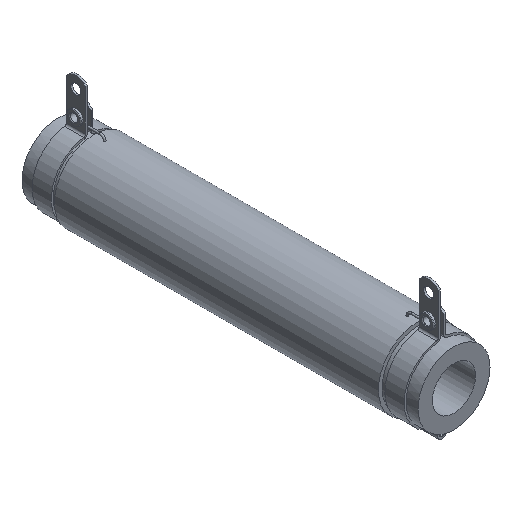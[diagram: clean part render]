
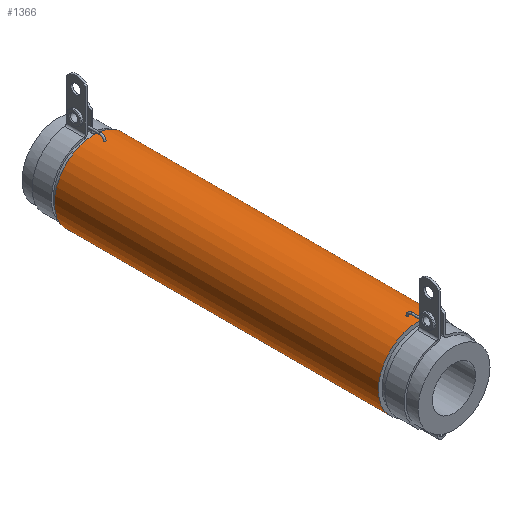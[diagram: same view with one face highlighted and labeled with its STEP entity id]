
A CAD part, isometric view. The second image highlights one B-rep face of the part: STEP entity #1366.
In plain terms, the highlighted cylindrical face has radius 16.5 mm (diameter 33 mm), a full revolution.
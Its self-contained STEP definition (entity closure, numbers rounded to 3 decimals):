
#147=B_SPLINE_CURVE_WITH_KNOTS($,3,(#2087,#2088,#2089,#2090,#2091,#2092,
#2093,#2094,#2095,#2096,#2097,#2098,#2099,#2100,#2101,#2102,#2103,#2104,
#2105,#2106,#2107,#2108,#2109,#2110,#2111,#2112,#2113,#2114,#2115,#2116,
#2117,#2118,#2119,#2120,#2121,#2122),.UNSPECIFIED.,.T.,.F.,(4,2,2,2,2,2,
2,2,2,2,2,2,2,2,2,2,2,4),(0.,0.016,0.031,0.047,
0.063,0.079,0.095,0.11,
0.126,0.141,0.157,0.172,
0.189,0.204,0.22,0.236,
0.245,0.254),.UNSPECIFIED.);
#148=B_SPLINE_CURVE_WITH_KNOTS($,3,(#2124,#2125,#2126,#2127,#2128,#2129,
#2130,#2131,#2132,#2133,#2134,#2135,#2136,#2137,#2138,#2139,#2140,#2141,
#2142,#2143,#2144,#2145,#2146,#2147,#2148,#2149,#2150,#2151,#2152,#2153,
#2154,#2155,#2156,#2157,#2158,#2159),.UNSPECIFIED.,.T.,.F.,(4,2,2,2,2,2,
2,2,2,2,2,2,2,2,2,2,2,4),(0.,0.016,0.031,0.047,
0.063,0.079,0.095,0.11,
0.126,0.141,0.157,0.172,
0.189,0.204,0.22,0.236,
0.245,0.254),.UNSPECIFIED.);
#177=FACE_BOUND($,#372,.T.);
#178=FACE_BOUND($,#373,.T.);
#179=FACE_BOUND($,#374,.T.);
#180=FACE_BOUND($,#375,.T.);
#251=CYLINDRICAL_SURFACE($,#1468,16.5);
#372=EDGE_LOOP($,(#918));
#373=EDGE_LOOP($,(#919));
#374=EDGE_LOOP($,(#920));
#375=EDGE_LOOP($,(#921));
#511=CIRCLE($,#1469,16.5);
#512=CIRCLE($,#1470,16.5);
#604=VERTEX_POINT($,#2086);
#605=VERTEX_POINT($,#2123);
#606=VERTEX_POINT($,#2160);
#607=VERTEX_POINT($,#2162);
#736=EDGE_CURVE($,#604,#604,#147,.T.);
#737=EDGE_CURVE($,#605,#605,#148,.T.);
#738=EDGE_CURVE($,#606,#606,#511,.T.);
#739=EDGE_CURVE($,#607,#607,#512,.T.);
#918=ORIENTED_EDGE($,*,*,#736,.T.);
#919=ORIENTED_EDGE($,*,*,#737,.T.);
#920=ORIENTED_EDGE($,*,*,#738,.T.);
#921=ORIENTED_EDGE($,*,*,#739,.F.);
#1366=ADVANCED_FACE($,(#177,#178,#179,#180),#251,.T.);
#1468=AXIS2_PLACEMENT_3D($,#2085,#1662,#1663);
#1469=AXIS2_PLACEMENT_3D($,#2161,#1664,#1665);
#1470=AXIS2_PLACEMENT_3D($,#2163,#1666,#1667);
#1662=DIRECTION('center_axis',(0.,1.,0.));
#1663=DIRECTION('ref_axis',(0.757,0.,0.653));
#1664=DIRECTION('center_axis',(0.,-1.,0.));
#1665=DIRECTION('ref_axis',(0.757,0.,0.653));
#1666=DIRECTION('center_axis',(0.,-1.,0.));
#1667=DIRECTION('ref_axis',(0.757,0.,0.653));
#2085=CARTESIAN_POINT('Origin',(21.645,61.577,19.693));
#2086=CARTESIAN_POINT('',(21.645,66.458,36.193));
#2087=CARTESIAN_POINT('Ctrl Pts',(21.645,66.458,36.193));
#2088=CARTESIAN_POINT('Ctrl Pts',(21.697,66.458,36.193));
#2089=CARTESIAN_POINT('Ctrl Pts',(21.748,66.448,36.192));
#2090=CARTESIAN_POINT('Ctrl Pts',(21.844,66.409,36.192));
#2091=CARTESIAN_POINT('Ctrl Pts',(21.888,66.38,36.191));
#2092=CARTESIAN_POINT('Ctrl Pts',(21.962,66.307,36.19));
#2093=CARTESIAN_POINT('Ctrl Pts',(21.992,66.263,36.189));
#2094=CARTESIAN_POINT('Ctrl Pts',(22.033,66.167,36.188));
#2095=CARTESIAN_POINT('Ctrl Pts',(22.044,66.115,36.188));
#2096=CARTESIAN_POINT('Ctrl Pts',(22.046,66.009,36.188));
#2097=CARTESIAN_POINT('Ctrl Pts',(22.036,65.956,36.188));
#2098=CARTESIAN_POINT('Ctrl Pts',(21.998,65.856,36.189));
#2099=CARTESIAN_POINT('Ctrl Pts',(21.969,65.811,36.19));
#2100=CARTESIAN_POINT('Ctrl Pts',(21.895,65.734,36.191));
#2101=CARTESIAN_POINT('Ctrl Pts',(21.852,65.704,36.191));
#2102=CARTESIAN_POINT('Ctrl Pts',(21.757,65.661,36.192));
#2103=CARTESIAN_POINT('Ctrl Pts',(21.706,65.65,36.193));
#2104=CARTESIAN_POINT('Ctrl Pts',(21.603,65.648,36.193));
#2105=CARTESIAN_POINT('Ctrl Pts',(21.553,65.657,36.192));
#2106=CARTESIAN_POINT('Ctrl Pts',(21.457,65.693,36.192));
#2107=CARTESIAN_POINT('Ctrl Pts',(21.413,65.721,36.191));
#2108=CARTESIAN_POINT('Ctrl Pts',(21.336,65.792,36.19));
#2109=CARTESIAN_POINT('Ctrl Pts',(21.305,65.835,36.189));
#2110=CARTESIAN_POINT('Ctrl Pts',(21.261,65.932,36.188));
#2111=CARTESIAN_POINT('Ctrl Pts',(21.248,65.984,36.188));
#2112=CARTESIAN_POINT('Ctrl Pts',(21.243,66.091,36.188));
#2113=CARTESIAN_POINT('Ctrl Pts',(21.251,66.144,36.188));
#2114=CARTESIAN_POINT('Ctrl Pts',(21.287,66.243,36.189));
#2115=CARTESIAN_POINT('Ctrl Pts',(21.315,66.289,36.189));
#2116=CARTESIAN_POINT('Ctrl Pts',(21.385,66.366,36.191));
#2117=CARTESIAN_POINT('Ctrl Pts',(21.428,66.398,36.191));
#2118=CARTESIAN_POINT('Ctrl Pts',(21.501,66.433,36.192));
#2119=CARTESIAN_POINT('Ctrl Pts',(21.529,66.442,36.192));
#2120=CARTESIAN_POINT('Ctrl Pts',(21.587,66.455,36.193));
#2121=CARTESIAN_POINT('Ctrl Pts',(21.616,66.458,36.193));
#2122=CARTESIAN_POINT('Ctrl Pts',(21.645,66.458,36.193));
#2123=CARTESIAN_POINT('',(21.645,191.696,36.193));
#2124=CARTESIAN_POINT('Ctrl Pts',(21.645,191.696,36.193));
#2125=CARTESIAN_POINT('Ctrl Pts',(21.593,191.696,36.193));
#2126=CARTESIAN_POINT('Ctrl Pts',(21.542,191.706,36.192));
#2127=CARTESIAN_POINT('Ctrl Pts',(21.446,191.746,36.192));
#2128=CARTESIAN_POINT('Ctrl Pts',(21.402,191.774,36.191));
#2129=CARTESIAN_POINT('Ctrl Pts',(21.328,191.848,36.19));
#2130=CARTESIAN_POINT('Ctrl Pts',(21.298,191.891,36.189));
#2131=CARTESIAN_POINT('Ctrl Pts',(21.257,191.988,36.188));
#2132=CARTESIAN_POINT('Ctrl Pts',(21.246,192.04,36.188));
#2133=CARTESIAN_POINT('Ctrl Pts',(21.244,192.146,36.188));
#2134=CARTESIAN_POINT('Ctrl Pts',(21.254,192.199,36.188));
#2135=CARTESIAN_POINT('Ctrl Pts',(21.293,192.298,36.189));
#2136=CARTESIAN_POINT('Ctrl Pts',(21.322,192.344,36.19));
#2137=CARTESIAN_POINT('Ctrl Pts',(21.395,192.42,36.191));
#2138=CARTESIAN_POINT('Ctrl Pts',(21.439,192.451,36.191));
#2139=CARTESIAN_POINT('Ctrl Pts',(21.534,192.493,36.192));
#2140=CARTESIAN_POINT('Ctrl Pts',(21.585,192.504,36.193));
#2141=CARTESIAN_POINT('Ctrl Pts',(21.687,192.507,36.193));
#2142=CARTESIAN_POINT('Ctrl Pts',(21.738,192.498,36.192));
#2143=CARTESIAN_POINT('Ctrl Pts',(21.834,192.461,36.192));
#2144=CARTESIAN_POINT('Ctrl Pts',(21.878,192.434,36.191));
#2145=CARTESIAN_POINT('Ctrl Pts',(21.954,192.362,36.19));
#2146=CARTESIAN_POINT('Ctrl Pts',(21.985,192.319,36.189));
#2147=CARTESIAN_POINT('Ctrl Pts',(22.03,192.223,36.188));
#2148=CARTESIAN_POINT('Ctrl Pts',(22.043,192.17,36.188));
#2149=CARTESIAN_POINT('Ctrl Pts',(22.047,192.064,36.188));
#2150=CARTESIAN_POINT('Ctrl Pts',(22.039,192.011,36.188));
#2151=CARTESIAN_POINT('Ctrl Pts',(22.003,191.911,36.189));
#2152=CARTESIAN_POINT('Ctrl Pts',(21.976,191.866,36.189));
#2153=CARTESIAN_POINT('Ctrl Pts',(21.905,191.788,36.191));
#2154=CARTESIAN_POINT('Ctrl Pts',(21.863,191.757,36.191));
#2155=CARTESIAN_POINT('Ctrl Pts',(21.789,191.722,36.192));
#2156=CARTESIAN_POINT('Ctrl Pts',(21.761,191.712,36.192));
#2157=CARTESIAN_POINT('Ctrl Pts',(21.704,191.699,36.193));
#2158=CARTESIAN_POINT('Ctrl Pts',(21.675,191.696,36.193));
#2159=CARTESIAN_POINT('Ctrl Pts',(21.645,191.696,36.193));
#2160=CARTESIAN_POINT('',(9.155,196.577,8.911));
#2161=CARTESIAN_POINT('Origin',(21.645,196.577,19.693));
#2162=CARTESIAN_POINT('',(9.155,61.577,8.911));
#2163=CARTESIAN_POINT('Origin',(21.645,61.577,19.693));
